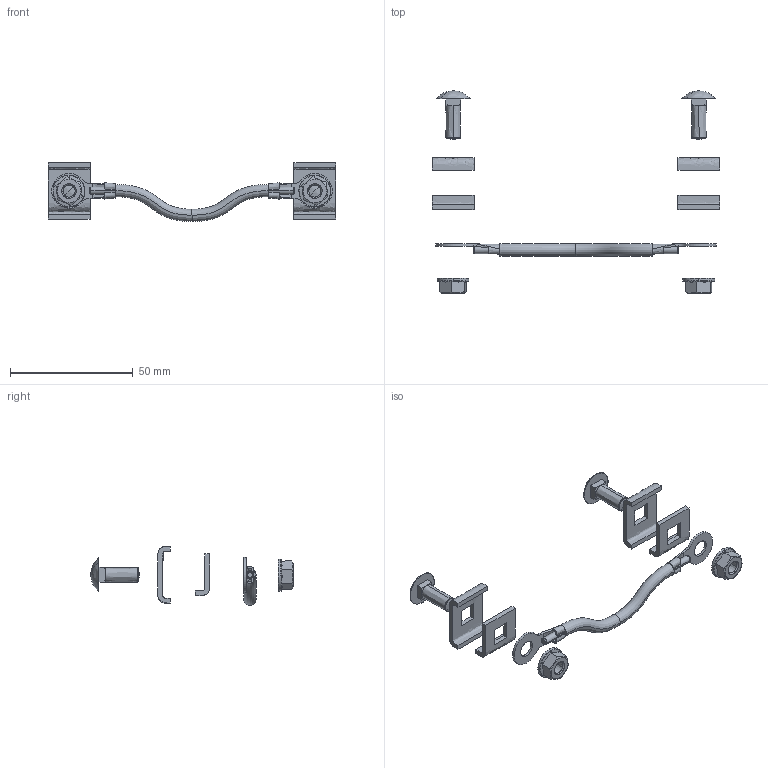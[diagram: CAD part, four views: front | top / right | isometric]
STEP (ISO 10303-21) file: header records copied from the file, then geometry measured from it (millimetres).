
FILE_DESCRIPTION(/* description */ (''),/* implementation_level */ '2;1');
FILE_NAME(/* name */ 'SUM1',/* time_stamp */ '2012-11-29T22:18:33+01:00',/* author */ (''),/* organization */ (''),/* preprocessor_version */ 'ST-DEVELOPER v10',/* originating_system */ '',/* authorisation */ '');
FILE_SCHEMA (('AUTOMOTIVE_DESIGN_CC2'));
Length unit declared in the file: millimetre
Products named in the file (1): 1
Bounding box: 117 x 82.34 x 23.96 mm (x, y, z)
Surface area: 8489.6 mm2 (no closed solid volume)
Topology: 0 solids, 158 shells, 192 faces, 814 edges, 792 vertices
Faces by surface type: bspline 128, plane 64
Entity records: 22887 total; most frequent: CARTESIAN_POINT 17283, ORIENTED_EDGE 824, EDGE_CURVE 756, VERTEX_POINT 692, B_SPLINE_CURVE_WITH_KNOTS 650, COLOUR_RGB 210, PRESENTATION_STYLE_ASSIGNMENT 210, STYLED_ITEM 210
